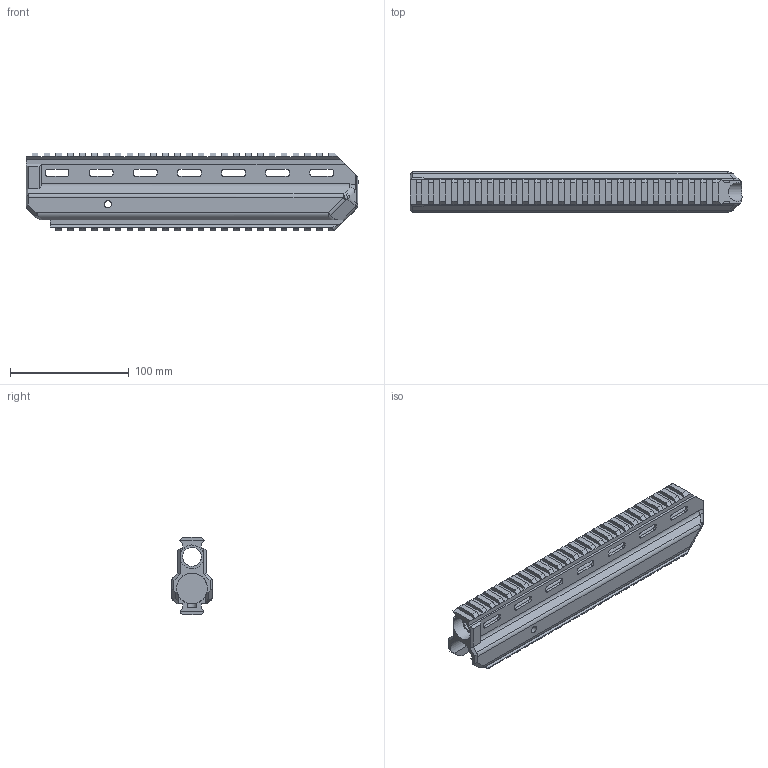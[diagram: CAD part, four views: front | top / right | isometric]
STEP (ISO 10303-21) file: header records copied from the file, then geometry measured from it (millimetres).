
FILE_DESCRIPTION(/* description */ ('Unknown'),/* implementation_level */ '2;1');
FILE_NAME(/* name */ 'Łoże Taktyczne',/* time_stamp */ '2025-07-28T13:20:53+02:00',/* author */ ('Unknown'),/* organization */ ('Unknown'),/* preprocessor_version */ 'ST-DEVELOPER v16.7',/* originating_system */ 'DEX',/* authorisation */ $);
FILE_SCHEMA (('AUTOMOTIVE_DESIGN {1 0 10303 214 3 1 1}'));
Length unit declared in the file: millimetre
Products named in the file (1): Loze Taktyczne
Bounding box: 280 x 34.4 x 65.64 mm (x, y, z)
Volume: 211975 mm3; surface area: 92612.3 mm2
Topology: 1 solids, 1 shells, 507 faces, 1498 edges, 982 vertices
Faces by surface type: plane 411, cylinder 85, sphere 9, bspline 2
Full cylindrical faces by diameter (mm): 6 x2, 16 x1, 20 x1, 26 x1
Entity records: 20316 total; most frequent: CARTESIAN_POINT 3270, ORIENTED_EDGE 2952, DIRECTION 2575, EDGE_CURVE 1476, LINE 1251, VECTOR 1251, VERTEX_POINT 975, AXIS2_PLACEMENT_3D 662
